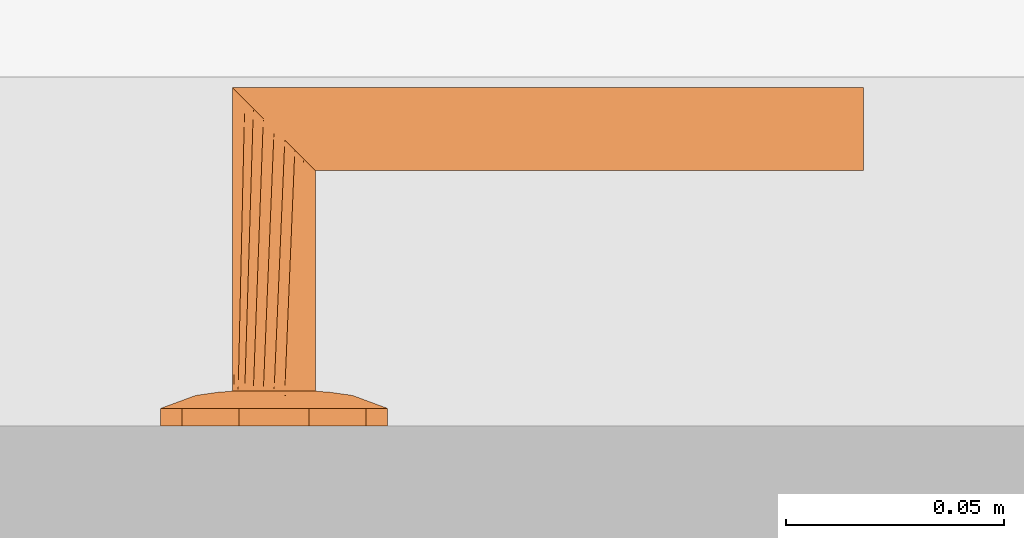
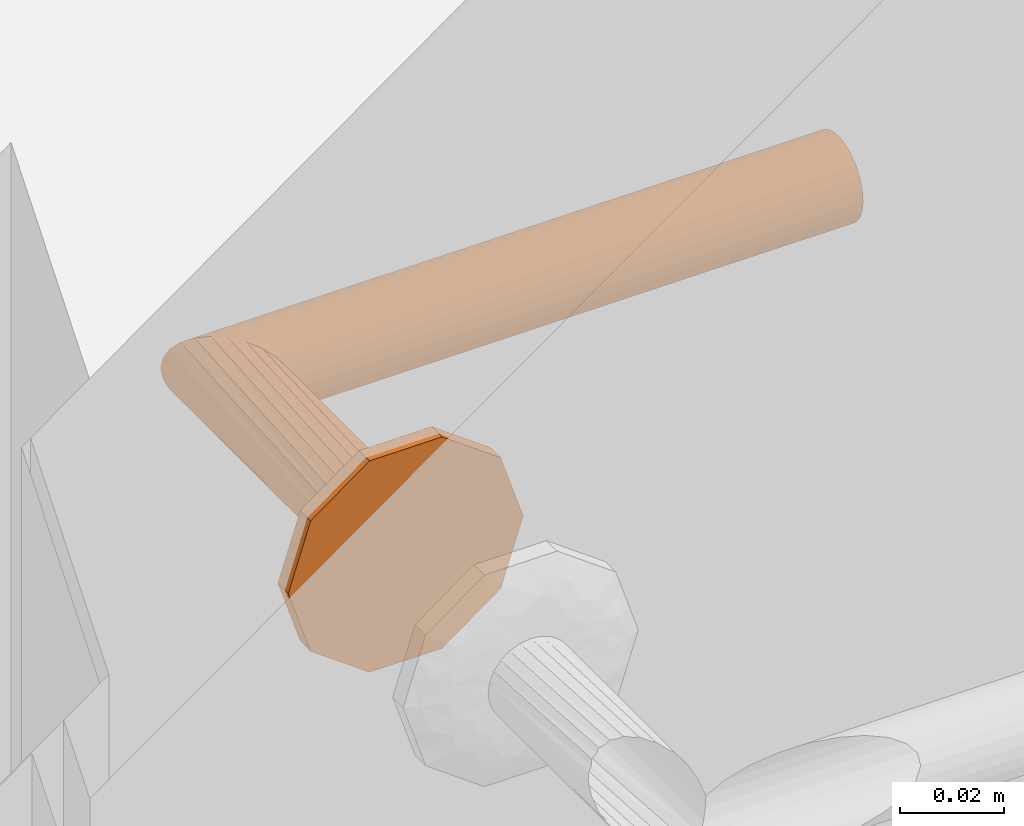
# One storey, part 36 of 55: 1 proxy.
"""IFC2X3 building model written with IfcOpenShell, lengths in millimetres."""

from ifc_helpers import new_model, entity, si_unit, converted_unit, direction, frame, origin, place, context, subcontext, project, spatial, faceted_brep, source, transform, mapped, material, type_object, type_shapes, element, save


model = new_model("IFC2X3")

# Units and contexts
model_context = context("Model", 3, precision=0.01, world=origin(), true_north=direction((6.123233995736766e-17, 1.0)))
plan_context = context("Plan", 3, precision=0.01, world=origin(), true_north=direction((6.123233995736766e-17, 1.0)))
body_context = subcontext(model_context, "Body", "Model", "MODEL_VIEW")
ifc_project = project(units=[si_unit("LENGTHUNIT", "METRE", prefix="MILLI"), converted_unit("PLANEANGLEUNIT", "DEGREE", entity("IfcPlaneAngleMeasure", 0.017453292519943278), si_unit("PLANEANGLEUNIT", "RADIAN"), dimensions=[0, 0, 0, 0, 0, 0, 0]), si_unit("AREAUNIT", "SQUARE_METRE")], contexts=[model_context, plan_context])

# Site, building, storey
site_placement = place(None, origin())
site = spatial("IfcSite", under=ifc_project, at=site_placement, Name="Default", CompositionType="ELEMENT")
building_placement = place(site_placement, origin())
building = spatial("IfcBuilding", under=site, at=building_placement, CompositionType="ELEMENT")
storey_placement = place(building_placement, origin())
storey = spatial("IfcBuildingStorey", under=building, at=storey_placement, Name="1K", CompositionType="ELEMENT", Elevation=0.0)

# Proxy
ifc_material = material(Name="<Unnamed>")
building_element_proxy_type = type_object("IfcBuildingElementProxyType", Name="Door-handle_Lever_ABLOY_INOXI_3-19ss-002_RT:Default", PredefinedType="NOTDEFINED", material=ifc_material)
shared_shape = source(origin(), body_context, "Body", "Brep", [
    faceted_brep([(0.0, 0.0, 0.0), (21.034441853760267, -15.282416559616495, 0.0), (14.534441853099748, -20.00494299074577, 0.0), (8.034441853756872, -24.72746942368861, 0.0), (0.0, -24.72746942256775, 0.0), (23.51722092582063, -7.6412082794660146, 0.0), (26.0, 0.0, 0.0), (-8.034441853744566, -24.727469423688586, 0.0), (-14.534441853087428, -20.00494299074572, 0.0), (-21.03444185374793, -15.282416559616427, 0.0), (-23.517220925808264, -7.641208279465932, 0.0), (-26.0, 0.0, 0.0), (-23.517220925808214, 7.641208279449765, 0.0), (23.517220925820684, 7.641208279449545, 0.0), (21.034441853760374, 15.282416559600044, 0.0), (14.53444185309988, 20.00494299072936, 0.0), (8.034441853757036, 24.72746942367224, 0.0), (-21.034441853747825, 15.282416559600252, 0.0), (-14.53444185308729, 20.004942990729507, 0.0), (-8.0344418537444, 24.72746942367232, 0.0), (0.0, 24.72746942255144, 0.0), (0.0, 0.0, 8.0), (4.7500000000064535, -8.227241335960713, 8.0), (5.937500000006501, -6.170431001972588, 8.0), (7.125000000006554, -4.113620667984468, 8.0), (8.312500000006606, -2.0568103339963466, 8.0), (9.500000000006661, 0.0, 8.0), (8.312500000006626, 2.056810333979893, 8.0), (2.3750000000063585, -8.227241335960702, 8.0), (0.0, -8.227241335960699, 8.0), (-2.3749999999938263, -8.227241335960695, 8.0), (-4.749999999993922, -8.227241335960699, 8.0), (-5.937499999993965, -6.170431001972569, 8.0), (-7.124999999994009, -4.113620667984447, 8.0), (-8.312499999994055, -2.056810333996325, 8.0), (-9.499999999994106, 0.0, 8.0), (7.125000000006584, 4.113620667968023, 8.0), (5.937500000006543, 6.170431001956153, 8.0), (4.750000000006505, 8.227241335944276, 8.0), (2.3750000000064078, 8.22724133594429, 8.0), (-8.31249999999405, 2.0568103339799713, 8.0), (-7.12499999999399, 4.113620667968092, 8.0), (-5.9374999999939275, 6.170431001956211, 8.0), (-4.74999999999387, 8.227241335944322, 8.0), (0.0, 8.227241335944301, 8.0), (-2.374999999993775, 8.227241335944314, 8.0), (-22.488765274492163, -10.806469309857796, 4.030771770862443), (-16.663919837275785, -7.932665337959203, 6.877259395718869), (-20.643071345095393, -6.292822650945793, 5.929480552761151), (-12.50457926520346, -5.179566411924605, 7.774932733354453), (-16.764060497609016, -3.820257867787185, 7.1747985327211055), (-9.071726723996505, -10.311606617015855, 7.7520782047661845), (-11.963426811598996, -8.625290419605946, 7.618343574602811), (-11.979136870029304, -13.678312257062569, 6.945778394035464), (5.7585542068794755, -20.96753300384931, 5.871476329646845), (0.0, -24.72746942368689, 4.030771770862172), (8.03444185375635, -24.727469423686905, 4.030771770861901), (16.66391982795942, -7.932665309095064, 6.877259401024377), (22.488765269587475, -10.806469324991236, 4.03077177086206), (20.64307133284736, -6.29282258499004, 5.929480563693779), (14.534441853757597, -20.004942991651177, 4.030771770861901), (9.499431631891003, -18.64368355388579, 6.154325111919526), (-15.783149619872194, -11.991003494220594, 6.50080018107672), (-21.034441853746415, -15.282416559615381, 4.030771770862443), (-14.53444185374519, -20.00494299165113, 4.030771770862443), (-23.012042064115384, 0.0, 5.135401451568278), (-23.943088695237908, -6.330522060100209, 4.030771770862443), (11.96342678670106, -8.62529049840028, 7.618343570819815), (12.504579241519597, -5.179566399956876, 7.774932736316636), (16.764060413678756, -3.8202578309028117, 7.17479855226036), (15.783149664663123, -11.991003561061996, 6.50080015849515), (17.985351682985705, 0.0, 6.993737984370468), (23.012042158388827, 0.0, 5.135401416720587), (8.661516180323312, -10.478936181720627, 7.768126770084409), (-8.03444185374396, -24.727469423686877, 4.030771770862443), (-3.3573143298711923, -21.197247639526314, 5.971427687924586), (-9.941915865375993, -17.061976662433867, 6.522757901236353), (-5.973257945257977, -16.430139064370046, 7.110979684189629), (-7.711266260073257, -12.760344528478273, 7.594456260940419), (11.979136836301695, -13.678312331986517, 6.945778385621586), (7.511307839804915, -13.358932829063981, 7.529187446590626), (5.953298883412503, -16.50608604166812, 7.096344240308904), (-1.5654593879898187, -15.307443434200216, 7.519134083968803), (-7.784980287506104, -20.476295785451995, 5.812837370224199), (2.8135289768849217, -17.76392260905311, 6.993737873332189), (-17.98535168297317, 0.0, 6.993737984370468), (-26.0, 0.0, 4.030771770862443), (-23.51722092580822, -7.641208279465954, 4.030771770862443), (23.943088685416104, -6.33052209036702, 4.030771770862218), (24.308823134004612, -5.204907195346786, 4.030771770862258), (26.0, 0.0, 4.030771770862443), (21.03444185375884, -15.282416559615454, 4.030771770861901), (22.617646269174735, -10.40981439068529, 4.030771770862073), (22.488765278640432, 10.806469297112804, 4.030771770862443), (16.66391984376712, 7.932665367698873, 6.877259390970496), (20.643071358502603, 6.292822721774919, 5.929480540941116), (12.504579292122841, 5.179566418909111, 7.774932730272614), (16.764060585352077, 3.8202579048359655, 7.174798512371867), (9.07172672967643, 10.31160659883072, 7.752078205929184), (11.963426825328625, 8.62529034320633, 7.618343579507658), (11.979136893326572, 13.67831220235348, 6.9457784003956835), (-5.758554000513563, 20.96753314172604, 5.8714763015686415), (0.0, 24.72746942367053, 4.030771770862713), (-8.03444185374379, 24.72746942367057, 4.030771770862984), (-16.663919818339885, 7.932665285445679, 6.877259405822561), (-22.48876526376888, 10.806469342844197, 4.030771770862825), (-20.643071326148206, 6.2928225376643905, 5.929480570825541), (-14.534441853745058, 20.004942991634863, 4.030771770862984), (-9.499431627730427, 18.643683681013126, 6.154325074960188), (15.783149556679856, 11.991003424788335, 6.5008002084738), (21.03444185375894, 15.282416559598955, 4.030771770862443), (14.534441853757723, 20.004942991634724, 4.030771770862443), (23.943088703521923, 6.330522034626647, 4.030771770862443), (-11.96342675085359, 8.625290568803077, 7.618343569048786), (-12.504579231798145, 5.179566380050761, 7.77493273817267), (-16.764060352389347, 3.820257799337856, 7.174798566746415), (-15.78314967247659, 11.991003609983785, 6.500800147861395), (-8.661516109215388, 10.478936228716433, 7.768126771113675), (8.034441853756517, 24.727469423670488, 4.030771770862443), (3.3573144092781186, 21.197247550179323, 5.971427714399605), (9.941915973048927, 17.061976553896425, 6.522757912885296), (5.9732581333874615, 16.430139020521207, 7.110979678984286), (7.711266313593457, 12.760344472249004, 7.5944562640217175), (-11.979136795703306, 13.678312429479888, 6.945778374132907), (-7.511307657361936, 13.358932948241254, 7.5291874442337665), (-5.9532988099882, 16.50608628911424, 7.096344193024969), (1.5654596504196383, 15.3074431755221, 7.519134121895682), (7.784980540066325, 20.476295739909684, 5.812837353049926), (-2.81352881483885, 17.76392263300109, 6.993737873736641), (23.51722092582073, 7.6412082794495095, 4.030771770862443), (-23.94308867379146, 6.330522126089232, 4.030771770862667), (-24.308823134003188, 5.20490719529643, 4.030771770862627), (-21.034441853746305, 15.282416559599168, 4.030771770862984), (-22.617646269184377, 10.409814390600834, 4.0307717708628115)], [[[0, 1, 2]], [[0, 2, 3]], [[0, 3, 4]], [[0, 5, 1]], [[0, 6, 5]], [[0, 4, 7]], [[0, 7, 8]], [[0, 8, 9]], [[0, 9, 10]], [[0, 10, 11]], [[0, 11, 12]], [[0, 13, 6]], [[0, 14, 13]], [[0, 15, 14]], [[0, 16, 15]], [[0, 12, 17]], [[0, 17, 18]], [[0, 18, 19]], [[0, 19, 20]], [[0, 20, 16]], [[21, 22, 23]], [[21, 23, 24]], [[21, 24, 25]], [[21, 25, 26]], [[21, 26, 27]], [[21, 28, 22]], [[21, 29, 28]], [[21, 30, 29]], [[21, 31, 30]], [[21, 32, 31]], [[21, 33, 32]], [[21, 34, 33]], [[21, 35, 34]], [[21, 27, 36]], [[21, 36, 37]], [[21, 37, 38]], [[21, 38, 39]], [[21, 40, 35]], [[21, 41, 40]], [[21, 42, 41]], [[21, 43, 42]], [[21, 39, 44]], [[21, 44, 45]], [[21, 45, 43]], [[46, 47, 48]], [[47, 49, 50]], [[49, 33, 34]], [[51, 52, 53]], [[49, 52, 33]], [[48, 47, 50]], [[54, 55, 56]], [[57, 58, 59]], [[56, 60, 61]], [[62, 63, 64]], [[65, 66, 48]], [[67, 57, 68]], [[68, 69, 25]], [[57, 67, 70]], [[69, 26, 25]], [[62, 53, 52]], [[71, 69, 72]], [[67, 23, 73]], [[74, 55, 75]], [[76, 77, 78]], [[79, 60, 70]], [[69, 59, 72]], [[80, 81, 61]], [[77, 30, 78]], [[82, 30, 77]], [[28, 80, 22]], [[77, 83, 75]], [[75, 82, 77]], [[55, 84, 75]], [[85, 50, 35]], [[24, 68, 25]], [[82, 84, 29]], [[84, 82, 75]], [[31, 78, 30]], [[82, 29, 30]], [[34, 35, 50]], [[52, 49, 47]], [[62, 52, 47]], [[34, 50, 49]], [[53, 78, 51]], [[32, 33, 52]], [[85, 65, 50]], [[66, 65, 86]], [[67, 68, 24]], [[77, 76, 83]], [[65, 48, 50]], [[63, 62, 46]], [[48, 66, 87, 46]], [[62, 47, 46]], [[69, 68, 57]], [[80, 73, 22]], [[70, 67, 79]], [[67, 24, 23]], [[72, 88, 89, 90]], [[69, 71, 26]], [[59, 69, 57]], [[61, 60, 79]], [[62, 64, 53]], [[91, 58, 70]], [[72, 59, 88]], [[57, 70, 58]], [[59, 58, 92]], [[80, 61, 79]], [[91, 70, 60]], [[61, 81, 54]], [[73, 80, 79]], [[28, 84, 81]], [[67, 73, 79]], [[29, 84, 28]], [[22, 73, 23]], [[51, 31, 32]], [[76, 78, 53]], [[53, 64, 76]], [[83, 64, 74]], [[64, 83, 76]], [[75, 83, 74]], [[31, 51, 78]], [[52, 51, 32]], [[28, 81, 80]], [[54, 81, 84]], [[55, 54, 84]], [[61, 54, 56]], [[93, 94, 95]], [[94, 96, 97]], [[96, 36, 27]], [[98, 99, 100]], [[96, 99, 36]], [[95, 94, 97]], [[101, 102, 103]], [[104, 105, 106]], [[103, 107, 108]], [[109, 110, 111]], [[72, 112, 95]], [[113, 104, 114]], [[114, 115, 40]], [[104, 113, 116]], [[115, 35, 40]], [[109, 100, 99]], [[85, 115, 65]], [[113, 42, 117]], [[118, 102, 119]], [[120, 121, 122]], [[123, 107, 116]], [[115, 106, 65]], [[124, 125, 108]], [[121, 39, 122]], [[126, 39, 121]], [[45, 124, 43]], [[121, 127, 119]], [[119, 126, 121]], [[102, 128, 119]], [[71, 97, 26]], [[41, 114, 40]], [[126, 128, 44]], [[128, 126, 119]], [[38, 122, 39]], [[126, 44, 39]], [[27, 26, 97]], [[99, 96, 94]], [[109, 99, 94]], [[27, 97, 96]], [[100, 122, 98]], [[37, 36, 99]], [[71, 72, 97]], [[112, 72, 90]], [[113, 114, 41]], [[121, 120, 127]], [[72, 95, 97]], [[110, 109, 93]], [[95, 112, 129, 93]], [[109, 94, 93]], [[115, 114, 104]], [[124, 117, 43]], [[116, 113, 123]], [[113, 41, 42]], [[65, 130, 131, 86]], [[115, 85, 35]], [[106, 115, 104]], [[108, 107, 123]], [[109, 111, 100]], [[132, 105, 116]], [[65, 106, 130]], [[104, 116, 105]], [[106, 105, 133]], [[124, 108, 123]], [[132, 116, 107]], [[108, 125, 101]], [[117, 124, 123]], [[45, 128, 125]], [[113, 117, 123]], [[44, 128, 45]], [[43, 117, 42]], [[98, 38, 37]], [[120, 122, 100]], [[100, 111, 120]], [[127, 111, 118]], [[111, 127, 120]], [[119, 127, 118]], [[38, 98, 122]], [[99, 98, 37]], [[45, 125, 124]], [[101, 125, 128]], [[102, 101, 128]], [[108, 101, 103]], [[7, 74, 64, 63, 9, 8]], [[10, 9, 63, 46, 87, 66, 86, 11]], [[6, 90, 89, 88, 92, 1, 5]], [[1, 58, 91]], [[74, 7, 4, 3, 56, 55]], [[60, 56, 3, 2, 1, 91]], [[1, 92, 58]], [[14, 110, 93, 129, 112, 90, 6, 13]], [[111, 110, 14, 15, 16, 118]], [[11, 86, 131, 130, 133, 17, 12]], [[17, 105, 132]], [[118, 16, 20, 19, 103, 102]], [[107, 103, 19, 18, 17, 132]], [[17, 133, 105]], [[59, 92, 88]], [[106, 133, 130]]]),
    faceted_brep([(4.7499999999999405, -8.22724133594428, 8.0), (2.4587809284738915, -9.176295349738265, 8.0), (0.0, -9.499999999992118, 8.0), (-2.4587809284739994, -9.176295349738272, 8.0), (-4.7500000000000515, -8.227241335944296, 8.0), (-6.717514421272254, -6.717514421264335, 8.0), (-8.227241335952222, -4.74999999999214, 8.0), (-9.176295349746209, -2.4587809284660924, 8.0), (-9.500000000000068, 0.0, 8.0), (-9.176295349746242, 2.458780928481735, 8.0), (-8.227241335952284, 4.750000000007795, 8.0), (-6.717514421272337, 6.717514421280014, 8.0), (-4.750000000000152, 8.227241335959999, 8.0), (-2.4587809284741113, 9.176295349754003, 8.0), (0.0, 9.500000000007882, 8.0), (2.4587809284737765, 9.176295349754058, 8.0), (4.7499999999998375, 8.227241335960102, 8.0), (6.717514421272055, 6.717514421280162, 8.0), (8.22724133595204, 4.75000000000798, 8.0), (9.17629534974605, 2.458780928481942, 8.0), (9.499999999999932, 0.0, 8.0), (9.17629534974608, -2.458780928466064, 8.0), (8.227241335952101, -4.749999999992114, 8.0), (6.717514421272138, -6.7175144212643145, 8.0), (-8.227241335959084, 4.7499999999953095, 59.772758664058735), (-6.717514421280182, 6.7175144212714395, 61.282485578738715), (-9.176295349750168, 2.458780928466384, 58.82370465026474), (-4.750000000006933, 8.227241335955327, 63.25000000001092), (-2.4587809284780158, 9.176295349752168, 65.54121907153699), (-9.500000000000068, 0.0, 58.50000000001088), (0.0, 9.50000000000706, 68.0), (4.750000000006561, 8.227241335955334, 72.75000000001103), (2.4587809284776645, 9.17629534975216, 70.45878092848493), (6.717514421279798, 6.7175144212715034, 74.71751442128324), (8.22724133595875, 4.749999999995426, 76.22724133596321), (9.17629534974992, 2.458780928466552, 77.17629534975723), (9.499999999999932, 0.0, 77.50000000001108), (9.176295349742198, -2.4587809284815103, 77.1762953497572), (8.227241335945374, -4.750000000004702, 76.22724133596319), (6.7175144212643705, -6.717514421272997, 74.7175144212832), (4.749999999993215, -8.227241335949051, 72.75000000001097), (2.4587809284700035, -9.17629534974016, 70.45878092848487), (0.0, -9.49999999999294, 68.0), (-2.4587809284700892, -9.176295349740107, 65.54121907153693), (-4.749999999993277, -8.227241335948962, 63.250000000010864), (-6.717514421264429, -6.717514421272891, 61.282485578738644), (-9.176295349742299, -2.458780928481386, 58.8237046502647), (-8.227241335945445, -4.750000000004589, 59.77275866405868), (-135.0, -9.176295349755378, 70.4587809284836), (-135.0, -8.227241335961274, 72.75000000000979), (-135.0, -6.717514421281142, 74.71751442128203), (-135.0, -4.750000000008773, 76.22724133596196), (-135.0, -2.4587809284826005, 77.17629534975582), (-135.0, 0.0, 77.5000000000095), (-135.0, 2.4587809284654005, 77.17629534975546), (-135.0, 4.749999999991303, 76.22724133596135), (-135.0, 6.717514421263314, 74.71751442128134), (-135.0, 8.227241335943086, 72.75000000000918), (-135.0, 9.17629534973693, 70.45878092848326), (-135.0, 9.499999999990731, 68.0), (-135.0, 9.17629534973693, 65.54121907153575), (-135.0, 8.227241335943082, 63.250000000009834), (-135.0, 6.717514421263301, 61.28248557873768), (-135.0, 4.749999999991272, 59.772758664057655), (-135.0, 2.458780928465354, 58.823704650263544), (-135.0, 0.0, 58.50000000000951), (-135.0, -2.458780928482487, 58.82370465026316), (-135.0, -4.750000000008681, 59.772758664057), (-135.0, -6.7175144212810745, 61.28248557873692), (-135.0, -8.227241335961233, 63.25000000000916), (-135.0, -9.176295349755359, 65.54121907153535), (-135.0, -9.500000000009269, 68.0)], [[[0, 1, 2, 3, 4, 5, 6, 7, 8, 9, 10, 11, 12, 13, 14, 15, 16, 17, 18, 19, 20, 21, 22, 23]], [[24, 25, 11, 10]], [[26, 24, 10, 9]], [[14, 27, 28]], [[13, 27, 14]], [[25, 27, 13]], [[29, 26, 9, 8]], [[12, 11, 25]], [[25, 13, 12]], [[28, 30, 15]], [[31, 17, 32]], [[33, 18, 31]], [[19, 34, 35]], [[33, 34, 19]], [[20, 19, 35, 36]], [[16, 15, 30]], [[14, 28, 15]], [[19, 18, 33]], [[17, 31, 18]], [[17, 16, 32]], [[30, 32, 16]], [[20, 36, 37, 21]], [[38, 21, 37]], [[22, 39, 40]], [[38, 39, 21]], [[23, 40, 41]], [[39, 22, 21]], [[1, 42, 43]], [[42, 1, 0]], [[23, 41, 0]], [[23, 22, 40]], [[41, 42, 0]], [[44, 45, 3]], [[43, 44, 2]], [[46, 29, 8, 7]], [[47, 46, 7, 6]], [[45, 47, 6, 5]], [[45, 4, 3]], [[3, 2, 44]], [[5, 4, 45]], [[43, 2, 1]], [[48, 49, 50, 51, 52, 53, 54, 55, 56, 57, 58, 59, 60, 61, 62, 63, 64, 65, 66, 67, 68, 69, 70, 71]], [[64, 63, 24, 26]], [[65, 64, 26, 29]], [[61, 60, 28, 27]], [[62, 61, 27, 25]], [[63, 62, 25, 24]], [[59, 30, 28, 60]], [[57, 56, 33, 31]], [[58, 57, 31, 32]], [[54, 53, 36, 35]], [[55, 54, 35, 34]], [[56, 55, 34, 33]], [[32, 30, 59, 58]], [[52, 51, 38, 37]], [[53, 52, 37, 36]], [[49, 48, 41, 40]], [[50, 49, 40, 39]], [[51, 50, 39, 38]], [[42, 41, 48, 71]], [[69, 68, 45, 44]], [[70, 69, 44, 43]], [[66, 65, 29, 46]], [[67, 66, 46, 47]], [[68, 67, 47, 45]], [[42, 71, 70, 43]]]),
])
type_shapes(building_element_proxy_type, [shared_shape])
proxy_placement = place(storey_placement, frame((9764.995060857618, 4129.999959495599, 1000.0), z_axis=(0.0, 1.0, 0.0), x_axis=(-1.0, 0.0, 0.0)))
element("IfcBuildingElementProxy", 1, at=proxy_placement, inside=storey, type_object=building_element_proxy_type, material=ifc_material, Name="Door-handle_Lever_ABLOY_INOXI_3-19ss-002_RT:Default", ObjectType="Door-handle_Lever_ABLOY_INOXI_3-19ss-002_RT:Default", context=body_context, shape_type="MappedRepresentation", body=[
    mapped(shared_shape, transform((0.0, 0.0, 0.0), scale=1.0)),
])

save(model, "model.ifc")
